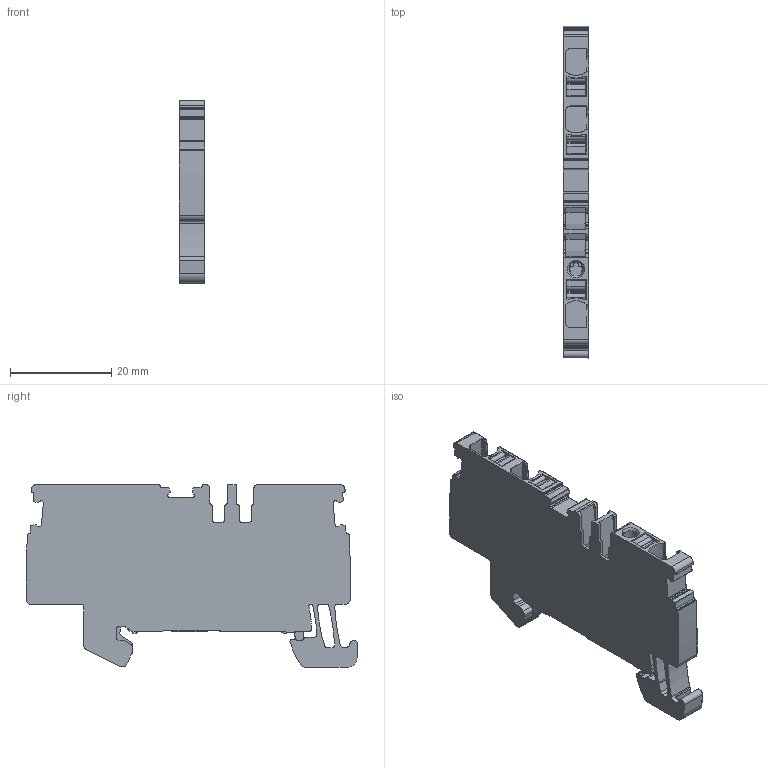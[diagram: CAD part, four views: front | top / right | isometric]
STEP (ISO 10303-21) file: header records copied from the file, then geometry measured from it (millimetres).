
FILE_DESCRIPTION(('CATIA V5R24 STEP','CAx-IF Rec.Pracs.--- Model Styling and Organization---1.2---2011-12-15'),'2;1');
FILE_NAME('I:\Germany\Data_Lifecycle\5_Team\Arens\A-Reihe\Fertig\1521670000.stp','2017-06-13T11:14:33+00:00',('Weidmueller Interface'),('WI'),'CATIA Version 5-6 Release 2014 SP4 HF52','CATIA V5 STEP AP214','none');
FILE_SCHEMA(('AUTOMOTIVE_DESIGN { 1 0 10303 214 1 1 1 1 }'));
Length unit declared in the file: millimetre
Products named in the file (1): 1521670000_A3C_2-5_PE
Bounding box: 5.1 x 65.63 x 36.15 mm (x, y, z)
Volume: 8251.4 mm3; surface area: 9561.9 mm2
Topology: 11 solids, 11 shells, 804 faces, 2363 edges, 1583 vertices
Faces by surface type: plane 376, cylinder 359, extrusion 67, cone 2
Entity records: 27840 total; most frequent: CARTESIAN_POINT 6273, ORIENTED_EDGE 4726, DIRECTION 3568, EDGE_CURVE 2363, VERTEX_POINT 1583, VECTOR 1547, LINE 1480, AXIS2_PLACEMENT_3D 1357
